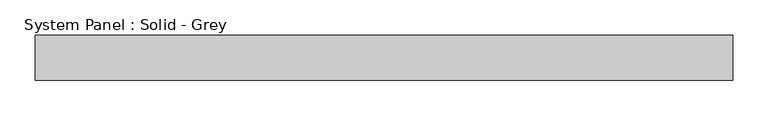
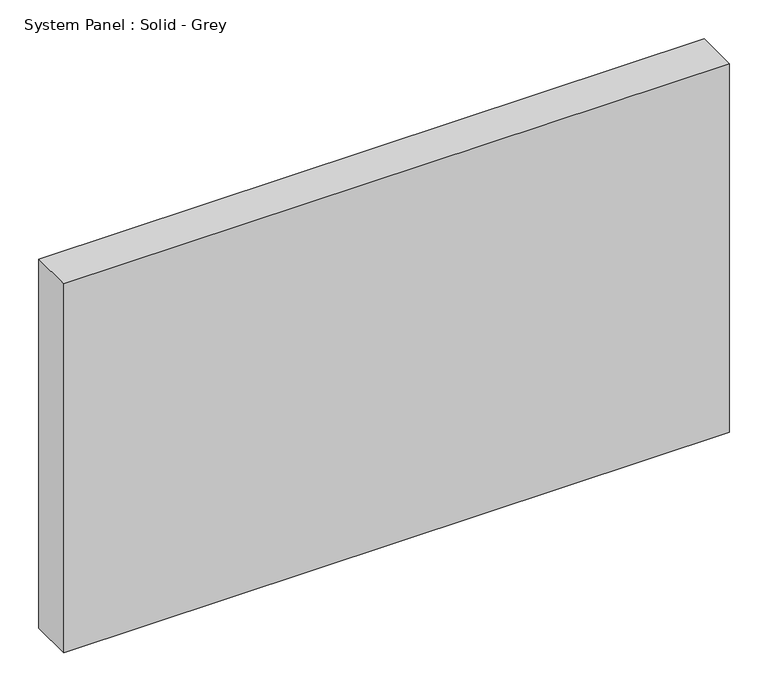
"""IFC4 building model written with IfcOpenShell, lengths in millimetres: plate geometry, System Panel : Solid - Grey."""

from ifc_helpers import new_model, si_unit, origin, origin_with_axes, place, context, project, spatial, polyline, outline, extrude, source, transform, mapped, element, save


def system_panel_solid_grey_94c4abe6(model_context):
    return source(origin(), model_context, "Body", "SweptSolid", [
        extrude(outline(polyline([(493.0321429, -19.05), (-493.0321429, -19.05), (-493.0321429, 44.45), (493.0321429, 44.45), (493.0321429, -19.05)])), origin_with_axes(), (0.0, 0.0, 1.0), 577.85),
    ])


if __name__ == "__main__":
    model = new_model("IFC4")
    model_context = context("Model", 3, world=origin())
    ifc_project = project(units=[si_unit("LENGTHUNIT", "METRE", prefix="MILLI")], contexts=[model_context])
    site = spatial("IfcSite", under=ifc_project)
    building = spatial("IfcBuilding", under=site)
    placement = place(None, origin())
    system_panel_solid_grey_shape = system_panel_solid_grey_94c4abe6(model_context)
    element("IfcPlate", 1, ObjectType="System Panel : Solid - Grey", at=placement, inside=building, context=model_context, shape_type="MappedRepresentation", body=[
        mapped(system_panel_solid_grey_shape, transform((0.0, 0.0, 0.0), x_axis=(1.0, 0.0, 0.0), y_axis=(0.0, 1.0, 0.0), z_axis=(0.0, 0.0, 1.0))),
    ])
    save(model, "model.ifc")
